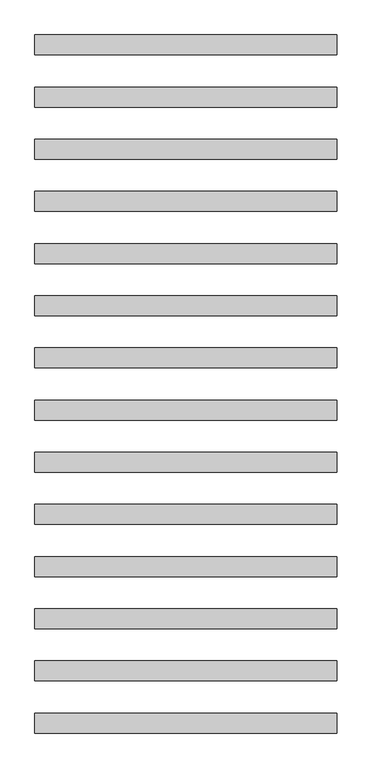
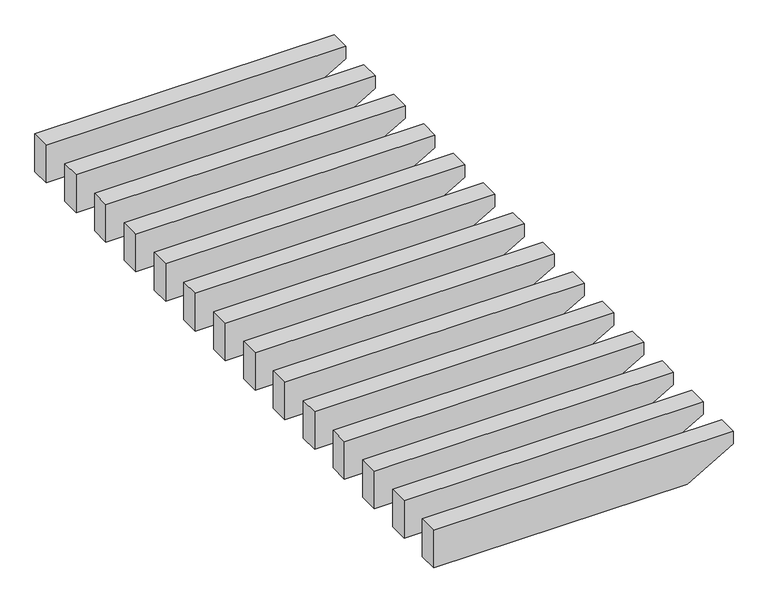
"""IFC4 building model written with IfcOpenShell, lengths in millimetres: proxy geometry, 常规模型 1 : 常规模型 1."""

import ifcopenshell
import ifcopenshell.guid

model = None  # the IFC model being written
_history = None  # IfcOwnerHistory: only IFC2X3 demands one
_inside = {}  # id of a spatial element -> (the spatial element, [elements in it])
_under = {}  # id of a project, library or spatial element -> (it, [spatial elements below it])
_declared = {}  # id of a project -> (the project, [libraries it declares])
_typed = {}  # id of a type object -> (the type object, [elements of that type])
_made_of = {}  # id of a material, layer set ... -> (it, [elements and type objects made of it])


def new_model(schema):
    """Start an empty IFC model of exactly this schema.

    Asked for "IFC4X3", IfcOpenShell would pick the latest addendum, in which some entities
    have other attributes; the version numbers below select the first issue.
    IFC2X3 requires an IfcOwnerHistory on every rooted entity: one is made here for all.
    """
    global model, _history
    if schema == "IFC4X3":
        model = ifcopenshell.file(schema_version=(4, 3, 0, 0))
    else:
        model = ifcopenshell.file(schema=schema)
    _inside.clear()
    _under.clear()
    _declared.clear()
    _typed.clear()
    _made_of.clear()
    _history = None
    if model.schema == "IFC2X3":
        org = make("IfcOrganization", Name="unknown")
        user = make(
            "IfcPersonAndOrganization",
            ThePerson=make("IfcPerson", FamilyName="unknown"),
            TheOrganization=org,
        )
        app = make(
            "IfcApplication",
            ApplicationDeveloper=org,
            Version="unknown",
            ApplicationFullName="unknown",
            ApplicationIdentifier="unknown",
        )
        _history = make(
            "IfcOwnerHistory",
            OwningUser=user,
            OwningApplication=app,
            ChangeAction="ADDED",
            CreationDate=0,
        )
    return model


def make(cls, **values):
    """One entity of the class cls with the attributes given. An attribute that is None is left unset."""
    return model.create_entity(
        cls, **{name: value for name, value in values.items() if value is not None}
    )


def rooted(cls, **values):
    """An entity with a GlobalId (a new one), such as an element, a storey or a relation."""
    return make(cls, GlobalId=ifcopenshell.guid.new(), OwnerHistory=_history, **values)


def si_unit(unit_type, name, prefix=None):
    """IfcSIUnit, for example si_unit("LENGTHUNIT", "METRE", prefix="MILLI")."""
    return make("IfcSIUnit", UnitType=unit_type, Prefix=prefix, Name=name)


def assignment(units):
    """IfcUnitAssignment: the units of a project."""
    return None if units is None else make("IfcUnitAssignment", Units=units)


def point(xyz):
    """IfcCartesianPoint."""
    return None if xyz is None else make("IfcCartesianPoint", Coordinates=xyz)


def direction(xyz):
    """IfcDirection."""
    return None if xyz is None else make("IfcDirection", DirectionRatios=xyz)


def frame(location, z_axis=None, x_axis=None):
    """IfcAxis2Placement3D, a coordinate frame: its origin and axes. An axis left out is left unset."""
    return make(
        "IfcAxis2Placement3D",
        Location=point(location),
        Axis=direction(z_axis),
        RefDirection=direction(x_axis),
    )


def origin():
    """The frame at (0, 0, 0) with its axes left unset."""
    return frame((0.0, 0.0, 0.0))


def place(relative_to, where):
    """IfcLocalPlacement: puts the frame where relative to a parent placement (None: the world)."""
    return make(
        "IfcLocalPlacement", PlacementRelTo=relative_to, RelativePlacement=where
    )


def context(
    kind, dimensions, precision=None, world=None, true_north=None, identifier=None
):
    """IfcGeometricRepresentationContext, for example the 3D "Model" context."""
    return make(
        "IfcGeometricRepresentationContext",
        ContextIdentifier=identifier,
        ContextType=kind,
        CoordinateSpaceDimension=dimensions,
        Precision=precision,
        WorldCoordinateSystem=world,
        TrueNorth=true_north,
    )


def project(units=None, contexts=None):
    """IfcProject with its units and contexts."""
    return rooted(
        "IfcProject",
        Name="project",
        RepresentationContexts=contexts,
        UnitsInContext=assignment(units),
    )


def spatial(cls, under=None, at=None, **own):
    """A site, building, storey or space (cls), placed at a placement, below another one or the project."""
    s = rooted(cls, ObjectPlacement=at, **own)
    if under is not None:
        _under.setdefault(under.id(), (under, []))[1].append(s)
    return s


def polyline(points):
    """IfcPolyline through the points."""
    return make("IfcPolyline", Points=[point(p) for p in points])


def outline(outer, holes=None, kind="AREA"):
    """IfcArbitraryClosedProfileDef: a profile drawn as a closed curve; with holes, ...WithVoids."""
    if holes is None:
        return make("IfcArbitraryClosedProfileDef", ProfileType=kind, OuterCurve=outer)
    return make(
        "IfcArbitraryProfileDefWithVoids",
        ProfileType=kind,
        OuterCurve=outer,
        InnerCurves=holes,
    )


def extrude(swept, where, along, depth):
    """IfcExtrudedAreaSolid: the profile swept, set in the frame where, extruded along a direction by depth."""
    return make(
        "IfcExtrudedAreaSolid",
        SweptArea=swept,
        Position=where,
        ExtrudedDirection=direction(along),
        Depth=depth,
    )


def shape(context_of_items, identifier, shape_type, items):
    """IfcShapeRepresentation: the items that make up one representation, for example the "Body"."""
    return make(
        "IfcShapeRepresentation",
        ContextOfItems=context_of_items,
        RepresentationIdentifier=identifier,
        RepresentationType=shape_type,
        Items=items,
    )


def source(mapping_origin, context_of_items, identifier, shape_type, items):
    """IfcRepresentationMap: a shape defined once, which mapped items show again and again."""
    return make(
        "IfcRepresentationMap",
        MappingOrigin=mapping_origin,
        MappedRepresentation=shape(context_of_items, identifier, shape_type, items),
    )


def transform(
    local_origin,
    x_axis=None,
    y_axis=None,
    z_axis=None,
    scale=None,
    scale2=None,
    scale3=None,
    uniform=True,
):
    """IfcCartesianTransformationOperator3D, or its non-uniform kind. x_axis, y_axis, z_axis: its Axis1, 2, 3."""
    if uniform:
        return make(
            "IfcCartesianTransformationOperator3D",
            Axis1=direction(x_axis),
            Axis2=direction(y_axis),
            LocalOrigin=point(local_origin),
            Scale=scale,
            Axis3=direction(z_axis),
        )
    return make(
        "IfcCartesianTransformationOperator3DnonUniform",
        Axis1=direction(x_axis),
        Axis2=direction(y_axis),
        LocalOrigin=point(local_origin),
        Scale=scale,
        Axis3=direction(z_axis),
        Scale2=scale2,
        Scale3=scale3,
    )


def mapped(mapping_source, mapping_target):
    """IfcMappedItem: shows the shape of a source again, moved by a transform."""
    return make(
        "IfcMappedItem", MappingSource=mapping_source, MappingTarget=mapping_target
    )


def made_of(thing, what):
    """Note that an element or type object is made of a material, layer set ...; save() writes the relation."""
    if what is not None:
        _made_of.setdefault(what.id(), (what, []))[1].append(thing)
    return thing


def element(
    cls,
    number,
    at=None,
    inside=None,
    cuts=None,
    type_object=None,
    material=None,
    context=None,
    identifier="Body",
    shape_type=None,
    held_by="IfcProductDefinitionShape",
    body=None,
    shapes=None,
    **own,
):
    """One element of the class cls, such as IfcWall. Its Tag is "e" and its number.

    at: its placement. inside: the storey or other place that contains it. cuts: it is an
    opening in that element (IfcRelVoidsElement). A single representation is given by context,
    identifier, shape_type and body (its items); several are given by shapes. held_by: the class
    of the entity that holds the representations. save() writes the other relations.
    """
    e = rooted(cls, Tag="e%d" % number, ObjectPlacement=at, **own)
    if body is not None:
        shapes = [shape(context, identifier, shape_type, body)]
    if shapes is not None:
        e.Representation = make(held_by, Representations=shapes)
    if inside is not None:
        _inside.setdefault(inside.id(), (inside, []))[1].append(e)
    if cuts is not None:
        rooted(
            "IfcRelVoidsElement", RelatingBuildingElement=cuts, RelatedOpeningElement=e
        )
    if type_object is not None:
        _typed.setdefault(type_object.id(), (type_object, []))[1].append(e)
    return made_of(e, material)


def aggregate(whole, parts):
    """IfcRelAggregates: a whole, such as a stair, and the parts it consists of."""
    return rooted("IfcRelAggregates", RelatingObject=whole, RelatedObjects=parts)


def save(model, path):
    """Write the relations noted so far, then the file.

    IfcRelAggregates (storeys below a building ...), IfcRelContainedInSpatialStructure (elements
    in a storey), IfcRelDefinesByType, IfcRelAssociatesMaterial and IfcRelDeclares: one each for
    every whole, place, type object, material and project.
    """
    for whole, parts in _under.values():
        aggregate(whole, parts)
    for where, things in _inside.values():
        rooted(
            "IfcRelContainedInSpatialStructure",
            RelatedElements=things,
            RelatingStructure=where,
        )
    for kind, things in _typed.values():
        rooted("IfcRelDefinesByType", RelatedObjects=things, RelatingType=kind)
    for what, things in _made_of.values():
        rooted("IfcRelAssociatesMaterial", RelatedObjects=things, RelatingMaterial=what)
    for by, libraries in _declared.values():
        rooted("IfcRelDeclares", RelatingContext=by, RelatedDefinitions=libraries)
    model.write(path)


def generic_models_23ad3c99(model_context):
    return source(origin(), model_context, "Body", "SweptSolid", [
        extrude(outline(polyline([(2820.0, 6184.9271532), (2920.0, 6358.132234), (2970.0, 6358.132234), (2970.0, 5228.132234), (2820.0, 5228.132234), (2820.0, 6184.9271532)])), frame((0.0, -950.3095556, 0.0), z_axis=(0.0, 1.0, 0.0), x_axis=(0.0, 0.0, 1.0)), (0.0, 0.0, 1.0), 75.0),
        extrude(outline(polyline([(2820.0, 6184.9271532), (2920.0, 6358.132234), (2970.0, 6358.132234), (2970.0, 5228.132234), (2820.0, 5228.132234), (2820.0, 6184.9271532)])), frame((0.0, -755.3095556, 0.0), z_axis=(0.0, 1.0, 0.0), x_axis=(0.0, 0.0, 1.0)), (0.0, 0.0, 1.0), 75.0),
        extrude(outline(polyline([(2820.0, 6184.9271532), (2920.0, 6358.132234), (2970.0, 6358.132234), (2970.0, 5228.132234), (2820.0, 5228.132234), (2820.0, 6184.9271532)])), frame((0.0, -560.3095556, 0.0), z_axis=(0.0, 1.0, 0.0), x_axis=(0.0, 0.0, 1.0)), (0.0, 0.0, 1.0), 75.0),
        extrude(outline(polyline([(2820.0, 6184.9271532), (2920.0, 6358.132234), (2970.0, 6358.132234), (2970.0, 5228.132234), (2820.0, 5228.132234), (2820.0, 6184.9271532)])), frame((0.0, -365.3095556, 0.0), z_axis=(0.0, 1.0, 0.0), x_axis=(0.0, 0.0, 1.0)), (0.0, 0.0, 1.0), 75.0),
        extrude(outline(polyline([(2820.0, 6184.9271532), (2920.0, 6358.132234), (2970.0, 6358.132234), (2970.0, 5228.132234), (2820.0, 5228.132234), (2820.0, 6184.9271532)])), frame((0.0, -170.3095556, 0.0), z_axis=(0.0, 1.0, 0.0), x_axis=(0.0, 0.0, 1.0)), (0.0, 0.0, 1.0), 75.0),
        extrude(outline(polyline([(2820.0, 6184.9271532), (2920.0, 6358.132234), (2970.0, 6358.132234), (2970.0, 5228.132234), (2820.0, 5228.132234), (2820.0, 6184.9271532)])), frame((0.0, 24.6904444, 0.0), z_axis=(0.0, 1.0, 0.0), x_axis=(0.0, 0.0, 1.0)), (0.0, 0.0, 1.0), 75.0),
        extrude(outline(polyline([(2820.0, 6184.9271532), (2920.0, 6358.132234), (2970.0, 6358.132234), (2970.0, 5228.132234), (2820.0, 5228.132234), (2820.0, 6184.9271532)])), frame((0.0, 219.6904444, 0.0), z_axis=(0.0, 1.0, 0.0), x_axis=(0.0, 0.0, 1.0)), (0.0, 0.0, 1.0), 75.0),
        extrude(outline(polyline([(2820.0, 6184.9271532), (2920.0, 6358.132234), (2970.0, 6358.132234), (2970.0, 5228.132234), (2820.0, 5228.132234), (2820.0, 6184.9271532)])), frame((0.0, 414.6904444, 0.0), z_axis=(0.0, 1.0, 0.0), x_axis=(0.0, 0.0, 1.0)), (0.0, 0.0, 1.0), 75.0),
        extrude(outline(polyline([(2820.0, 6184.9271532), (2920.0, 6358.132234), (2970.0, 6358.132234), (2970.0, 5228.132234), (2820.0, 5228.132234), (2820.0, 6184.9271532)])), frame((0.0, 609.6904444, 0.0), z_axis=(0.0, 1.0, 0.0), x_axis=(0.0, 0.0, 1.0)), (0.0, 0.0, 1.0), 75.0),
        extrude(outline(polyline([(2820.0, 6184.9271532), (2920.0, 6358.132234), (2970.0, 6358.132234), (2970.0, 5228.132234), (2820.0, 5228.132234), (2820.0, 6184.9271532)])), frame((0.0, 804.6904444, 0.0), z_axis=(0.0, 1.0, 0.0), x_axis=(0.0, 0.0, 1.0)), (0.0, 0.0, 1.0), 75.0),
        extrude(outline(polyline([(2820.0, 6184.9271532), (2920.0, 6358.132234), (2970.0, 6358.132234), (2970.0, 5228.132234), (2820.0, 5228.132234), (2820.0, 6184.9271532)])), frame((0.0, 999.6904444, 0.0), z_axis=(0.0, 1.0, 0.0), x_axis=(0.0, 0.0, 1.0)), (0.0, 0.0, 1.0), 75.0),
        extrude(outline(polyline([(2820.0, 6184.9271532), (2920.0, 6358.132234), (2970.0, 6358.132234), (2970.0, 5228.132234), (2820.0, 5228.132234), (2820.0, 6184.9271532)])), frame((0.0, 1194.6904444, 0.0), z_axis=(0.0, 1.0, 0.0), x_axis=(0.0, 0.0, 1.0)), (0.0, 0.0, 1.0), 75.0),
        extrude(outline(polyline([(2820.0, 6184.9271532), (2920.0, 6358.132234), (2970.0, 6358.132234), (2970.0, 5228.132234), (2820.0, 5228.132234), (2820.0, 6184.9271532)])), frame((0.0, 1389.6904444, 0.0), z_axis=(0.0, 1.0, 0.0), x_axis=(0.0, 0.0, 1.0)), (0.0, 0.0, 1.0), 75.0),
        extrude(outline(polyline([(2820.0, 6184.9271532), (2920.0, 6358.132234), (2970.0, 6358.132234), (2970.0, 5228.132234), (2820.0, 5228.132234), (2820.0, 6184.9271532)])), frame((0.0, 1584.6904444, 0.0), z_axis=(0.0, 1.0, 0.0), x_axis=(0.0, 0.0, 1.0)), (0.0, 0.0, 1.0), 75.0),
    ])


if __name__ == "__main__":
    model = new_model("IFC4")
    model_context = context("Model", 3, world=origin())
    ifc_project = project(units=[si_unit("LENGTHUNIT", "METRE", prefix="MILLI")], contexts=[model_context])
    site = spatial("IfcSite", under=ifc_project)
    building = spatial("IfcBuilding", under=site)
    placement = place(None, origin())
    generic_models_shape = generic_models_23ad3c99(model_context)
    element("IfcBuildingElementProxy", 1, Name="常规模型 1 : 常规模型 1", ObjectType="常规模型 1 : 常规模型 1", at=placement, inside=building, context=model_context, shape_type="MappedRepresentation", body=[
        mapped(generic_models_shape, transform((0.0, 0.0, 0.0), x_axis=(1.0, 0.0, 0.0), y_axis=(0.0, 1.0, 0.0), z_axis=(0.0, 0.0, 1.0))),
    ])
    save(model, "model.ifc")
